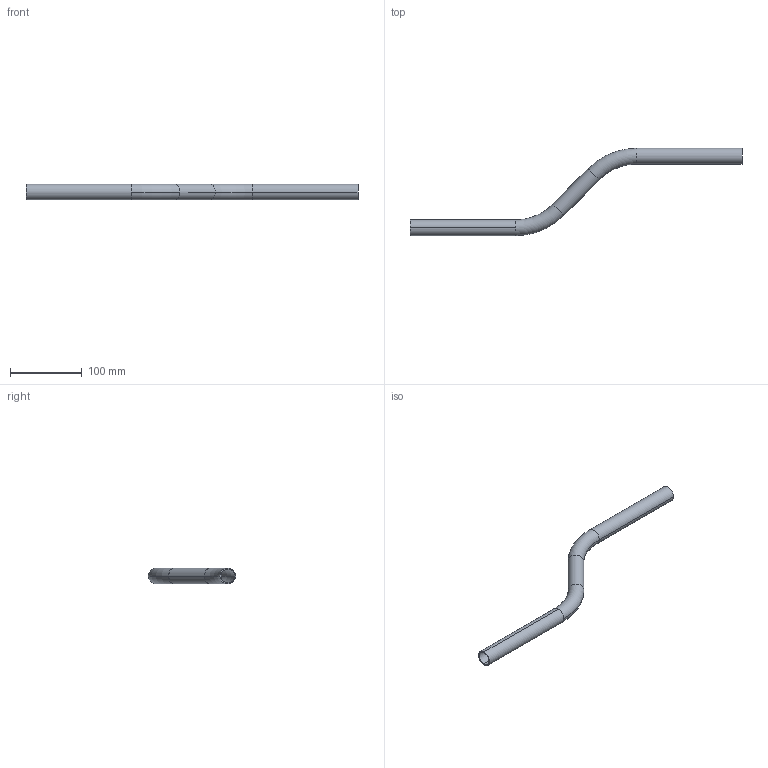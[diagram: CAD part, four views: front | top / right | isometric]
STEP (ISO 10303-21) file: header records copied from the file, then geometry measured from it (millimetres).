
FILE_DESCRIPTION (( 'STEP AP203' ), '1' );
FILE_NAME ('059.022.103.STEP', '2015-06-04T13:28:03', ( '' ), ( '' ), 'SwSTEP 2.0', 'SolidWorks 2012', '' );
FILE_SCHEMA (( 'CONFIG_CONTROL_DESIGN' ));
Length unit declared in the file: millimetre
Products named in the file (1): 059.022.103
Bounding box: 463 x 122 x 22 mm (x, y, z)
Volume: 48034.3 mm3; surface area: 64238.9 mm2
Topology: 1 solids, 1 shells, 22 faces, 48 edges, 28 vertices
Faces by surface type: cylinder 12, torus 8, plane 2
Entity records: 693 total; most frequent: DIRECTION 130, CARTESIAN_POINT 99, ORIENTED_EDGE 96, AXIS2_PLACEMENT_3D 59, EDGE_CURVE 48, CIRCLE 36, VERTEX_POINT 28, EDGE_LOOP 24
